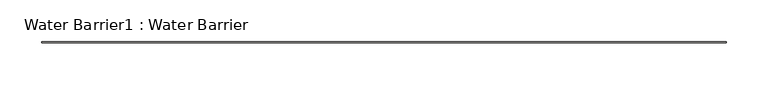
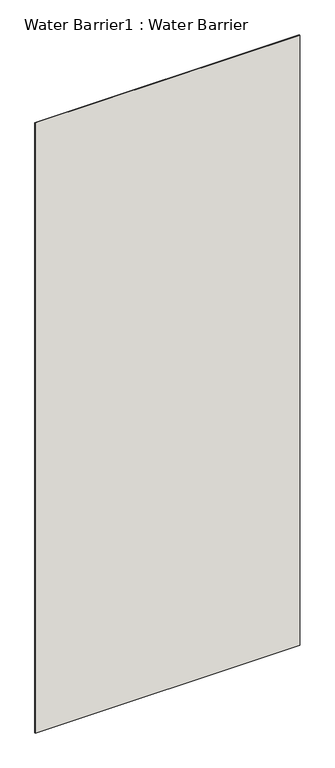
"""IFC4 building model written with IfcOpenShell, lengths in millimetres: wall geometry, Water Barrier1 : Water Barrier."""

from ifc_helpers import new_model, si_unit, origin, origin_with_axes, place, context, project, spatial, polyline, outline, extrude, source, transform, mapped, element, save


def water_barrier1_water_barrier_bf3ecdf6(model_context):
    return source(origin(), model_context, "Body", "SweptSolid", [
        extrude(outline(polyline([(20319.7747715, 15003.3863455), (21139.7747715, 15003.3863455), (21139.7747715, 15002.3863455), (20319.7747715, 15002.3863455), (20319.7747715, 15003.3863455)])), origin_with_axes(), (0.0, 0.0, 1.0), 2000.0),
    ])


if __name__ == "__main__":
    model = new_model("IFC4")
    model_context = context("Model", 3, world=origin())
    ifc_project = project(units=[si_unit("LENGTHUNIT", "METRE", prefix="MILLI")], contexts=[model_context])
    site = spatial("IfcSite", under=ifc_project)
    building = spatial("IfcBuilding", under=site)
    placement = place(None, origin())
    water_barrier1_water_barrier_shape = water_barrier1_water_barrier_bf3ecdf6(model_context)
    element("IfcWall", 1, ObjectType="Water Barrier1 : Water Barrier", at=placement, inside=building, context=model_context, shape_type="MappedRepresentation", body=[
        mapped(water_barrier1_water_barrier_shape, transform((0.0, 0.0, 0.0), x_axis=(1.0, 0.0, 0.0), y_axis=(0.0, 1.0, 0.0), z_axis=(0.0, 0.0, 1.0))),
    ])
    save(model, "model.ifc")
